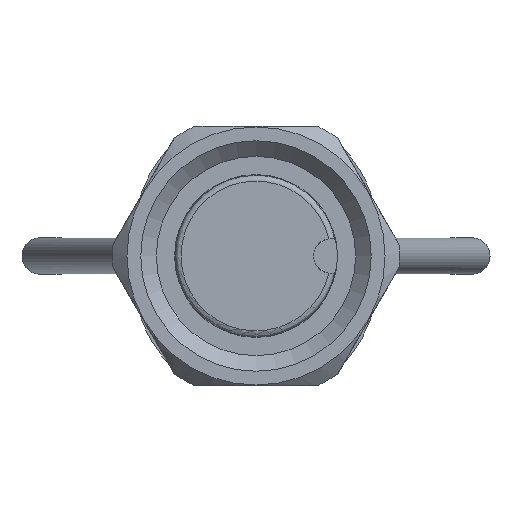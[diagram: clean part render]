
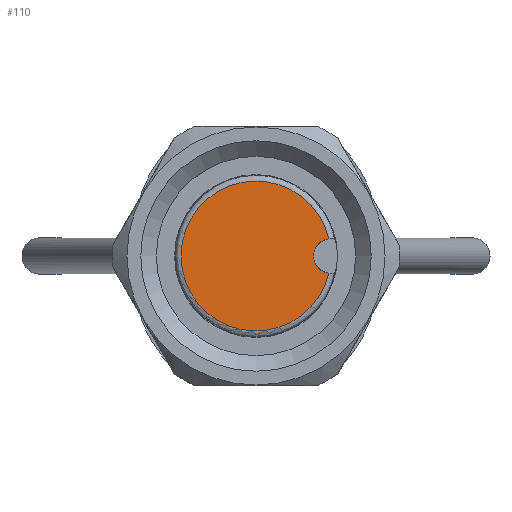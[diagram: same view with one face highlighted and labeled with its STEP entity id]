
A CAD part, left-side view. The second image highlights one B-rep face of the part: STEP entity #110.
In plain terms, the highlighted planar face has unit normal (-1, 0, 0).
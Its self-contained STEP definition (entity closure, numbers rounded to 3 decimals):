
#110 = ADVANCED_FACE( '', ( #216 ), #217, .F. );
#216 = FACE_OUTER_BOUND( '', #488, .T. );
#217 = PLANE( '', #489 );
#488 = EDGE_LOOP( '', ( #806, #807 ) );
#489 = AXIS2_PLACEMENT_3D( '', #808, #809, #810 );
#806 = ORIENTED_EDGE( '', *, *, #1056, .F. );
#807 = ORIENTED_EDGE( '', *, *, #1052, .F. );
#808 = CARTESIAN_POINT( '', ( 0.5, 0., 0. ) );
#809 = DIRECTION( '', ( 1., 0., 0. ) );
#810 = DIRECTION( '', ( 0., 0., -1. ) );
#1052 = EDGE_CURVE( '', #1264, #1266, #1267, .F. );
#1056 = EDGE_CURVE( '', #1266, #1264, #1272, .T. );
#1264 = VERTEX_POINT( '', #1821 );
#1266 = VERTEX_POINT( '', #1828 );
#1267 = CIRCLE( '', #1829, 0.6 );
#1272 = CIRCLE( '', #1839, 2.601 );
#1821 = CARTESIAN_POINT( '', ( 0.5, -2.532, 0.596 ) );
#1828 = CARTESIAN_POINT( '', ( 0.5, -2.532, -0.596 ) );
#1829 = AXIS2_PLACEMENT_3D( '', #2011, #2012, #2013 );
#1839 = AXIS2_PLACEMENT_3D( '', #2020, #2021, #2022 );
#2011 = CARTESIAN_POINT( '', ( 0.5, -2.599, 0. ) );
#2012 = DIRECTION( '', ( 1., 0., 0. ) );
#2013 = DIRECTION( '', ( 0., 0., -1. ) );
#2020 = CARTESIAN_POINT( '', ( 0.5, 0., 0. ) );
#2021 = DIRECTION( '', ( 1., 0., 0. ) );
#2022 = DIRECTION( '', ( 0., 0., -1. ) );
